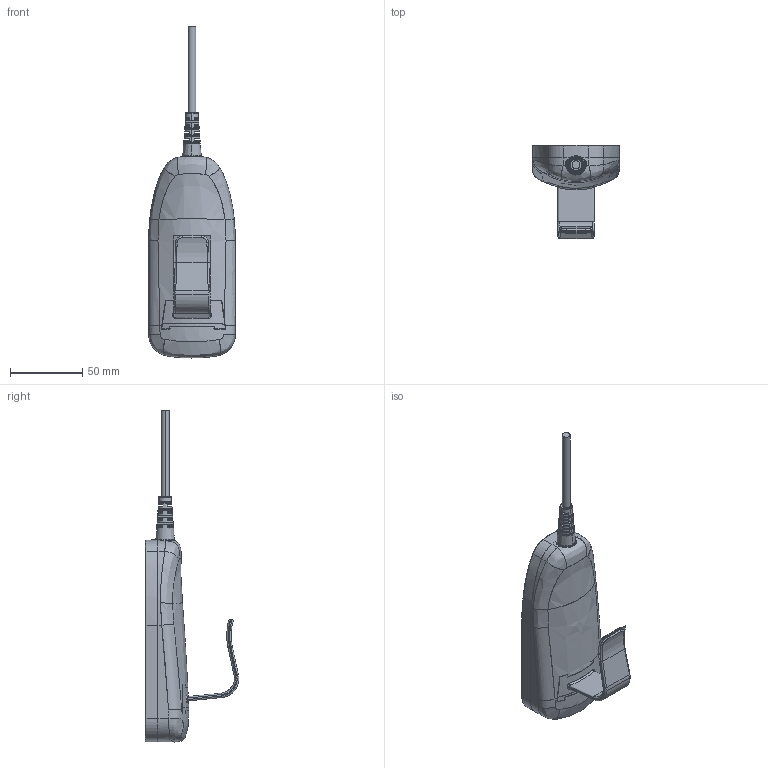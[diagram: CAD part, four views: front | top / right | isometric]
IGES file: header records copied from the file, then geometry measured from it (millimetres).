
Start section: SolidWorks IGES file using analytic representation for surfaces
Global section: file name: C:\Users\USER\Desktop\hs20-t2.IGS; native system: SolidWorks 2023; preprocessor: SolidWorks 2023; author: USER; date: 260330.093632; units: millimetre
Bounding box: 60 x 64.75 x 230 mm (x, y, z)
Surface area: 39469.1 mm2 (no closed solid volume)
Topology: 0 solids, 0 shells, 369 faces, 4482 edges, 4399 vertices
Faces by surface type: bspline 238, revolution 131
